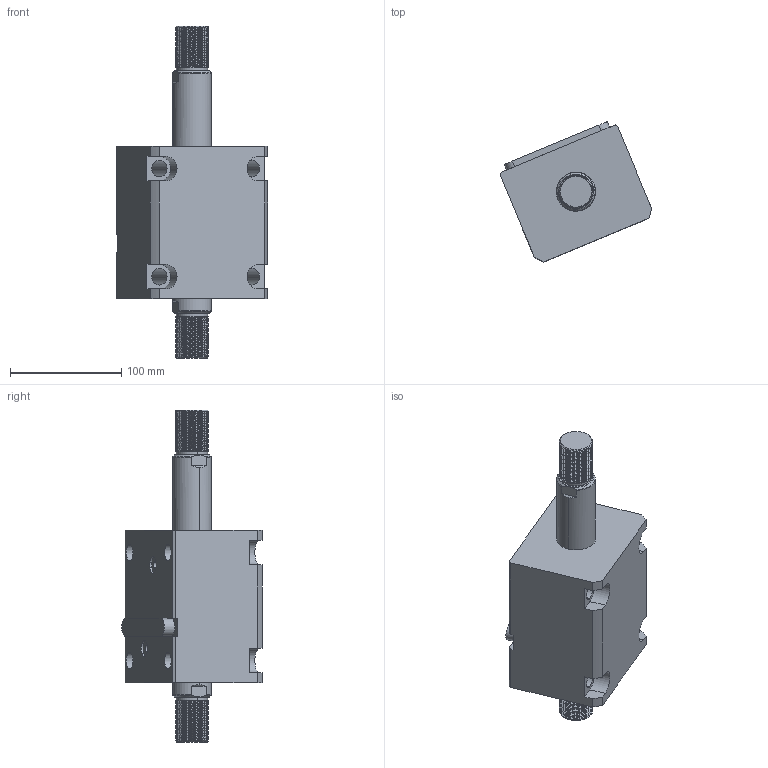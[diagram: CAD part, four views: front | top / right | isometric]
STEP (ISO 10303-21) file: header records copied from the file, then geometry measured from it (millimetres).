
FILE_DESCRIPTION (( 'STEP AP214' ), '1' );
FILE_NAME ('chtb-lwm63x55w_asm.STEP', '2018-05-22T01:32:00', ( 'Windows' ), ( 'Microsoft' ), 'SwSTEP 2.0', 'SolidWorks 2015', '' );
FILE_SCHEMA (( 'AUTOMOTIVE_DESIGN' ));
Length unit declared in the file: millimetre
Products named in the file (5): CHTB-SW63X55WHSG; CHTB-LWM63X55NBT; CHTB-LA63PJ; CHTB-63QG; chtb-lwm63x55w_asm
Assembly tree (4 placements, depth 2):
  chtb-lwm63x55w_asm
    CHTB-63QG
    CHTB-LA63PJ
    CHTB-LWM63X55NBT
    CHTB-SW63X55WHSG
Bounding box: 135.77 x 126.06 x 298 mm (x, y, z)
Volume: 1325239 mm3; surface area: 184327 mm2
Topology: 4 solids, 4 shells, 298 faces, 869 edges, 587 vertices
Faces by surface type: cylinder 203, plane 55, bspline 16, cone 12, torus 12
Entity records: 27660 total; most frequent: CARTESIAN_POINT 20506, ORIENTED_EDGE 1730, DIRECTION 1186, EDGE_CURVE 865, VERTEX_POINT 587, AXIS2_PLACEMENT_3D 440, EDGE_LOOP 326, VECTOR 306
